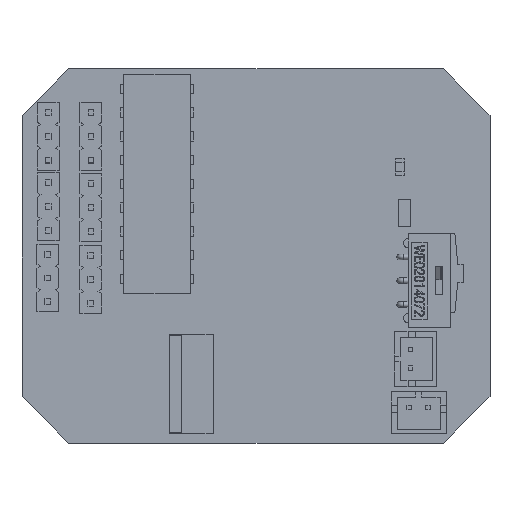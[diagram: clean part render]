
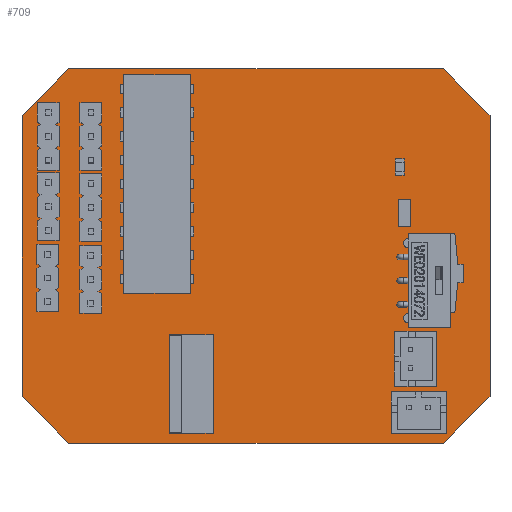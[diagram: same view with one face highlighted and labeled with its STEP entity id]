
A CAD part, top view. The second image highlights one B-rep face of the part: STEP entity #709.
In plain terms, the highlighted planar face has unit normal (0, 0, 1).
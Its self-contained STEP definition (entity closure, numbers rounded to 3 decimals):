
#87 = VERTEX_POINT('',#88);
#88 = CARTESIAN_POINT('',(87.5,30.,0.411));
#95 = PLANE('',#96);
#96 = AXIS2_PLACEMENT_3D('',#97,#98,#99);
#97 = CARTESIAN_POINT('',(87.5,30.,0.));
#98 = DIRECTION('',(-0.707,0.707,0.));
#99 = DIRECTION('',(0.707,0.707,0.));
#107 = PLANE('',#108);
#108 = AXIS2_PLACEMENT_3D('',#109,#110,#111);
#109 = CARTESIAN_POINT('',(47.5,30.,0.));
#110 = DIRECTION('',(0.,1.,0.));
#111 = DIRECTION('',(1.,0.,0.));
#119 = EDGE_CURVE('',#87,#120,#122,.T.);
#120 = VERTEX_POINT('',#121);
#121 = CARTESIAN_POINT('',(92.5,35.,0.411));
#122 = SURFACE_CURVE('',#123,(#127,#134),.PCURVE_S1.);
#123 = LINE('',#124,#125);
#124 = CARTESIAN_POINT('',(87.5,30.,0.411));
#125 = VECTOR('',#126,1.);
#126 = DIRECTION('',(0.707,0.707,0.));
#127 = PCURVE('',#95,#128);
#128 = DEFINITIONAL_REPRESENTATION('',(#129),#133);
#129 = LINE('',#130,#131);
#130 = CARTESIAN_POINT('',(0.,-0.411));
#131 = VECTOR('',#132,1.);
#132 = DIRECTION('',(1.,0.));
#133 = ( GEOMETRIC_REPRESENTATION_CONTEXT(2) 
PARAMETRIC_REPRESENTATION_CONTEXT() REPRESENTATION_CONTEXT('2D SPACE',''
  ) );
#134 = PCURVE('',#135,#140);
#135 = PLANE('',#136);
#136 = AXIS2_PLACEMENT_3D('',#137,#138,#139);
#137 = CARTESIAN_POINT('',(87.5,30.,0.411));
#138 = DIRECTION('',(0.,0.,-1.));
#139 = DIRECTION('',(-1.,0.,0.));
#140 = DEFINITIONAL_REPRESENTATION('',(#141),#145);
#141 = LINE('',#142,#143);
#142 = CARTESIAN_POINT('',(0.,0.));
#143 = VECTOR('',#144,1.);
#144 = DIRECTION('',(-0.707,0.707));
#145 = ( GEOMETRIC_REPRESENTATION_CONTEXT(2) 
PARAMETRIC_REPRESENTATION_CONTEXT() REPRESENTATION_CONTEXT('2D SPACE',''
  ) );
#163 = PLANE('',#164);
#164 = AXIS2_PLACEMENT_3D('',#165,#166,#167);
#165 = CARTESIAN_POINT('',(92.5,35.,0.));
#166 = DIRECTION('',(-1.,0.,0.));
#167 = DIRECTION('',(0.,1.,0.));
#205 = EDGE_CURVE('',#120,#206,#208,.T.);
#206 = VERTEX_POINT('',#207);
#207 = CARTESIAN_POINT('',(92.5,65.,0.411));
#208 = SURFACE_CURVE('',#209,(#213,#220),.PCURVE_S1.);
#209 = LINE('',#210,#211);
#210 = CARTESIAN_POINT('',(92.5,35.,0.411));
#211 = VECTOR('',#212,1.);
#212 = DIRECTION('',(0.,1.,0.));
#213 = PCURVE('',#163,#214);
#214 = DEFINITIONAL_REPRESENTATION('',(#215),#219);
#215 = LINE('',#216,#217);
#216 = CARTESIAN_POINT('',(0.,-0.411));
#217 = VECTOR('',#218,1.);
#218 = DIRECTION('',(1.,0.));
#219 = ( GEOMETRIC_REPRESENTATION_CONTEXT(2) 
PARAMETRIC_REPRESENTATION_CONTEXT() REPRESENTATION_CONTEXT('2D SPACE',''
  ) );
#220 = PCURVE('',#135,#221);
#221 = DEFINITIONAL_REPRESENTATION('',(#222),#226);
#222 = LINE('',#223,#224);
#223 = CARTESIAN_POINT('',(-5.,5.));
#224 = VECTOR('',#225,1.);
#225 = DIRECTION('',(0.,1.));
#226 = ( GEOMETRIC_REPRESENTATION_CONTEXT(2) 
PARAMETRIC_REPRESENTATION_CONTEXT() REPRESENTATION_CONTEXT('2D SPACE',''
  ) );
#244 = PLANE('',#245);
#245 = AXIS2_PLACEMENT_3D('',#246,#247,#248);
#246 = CARTESIAN_POINT('',(92.5,65.,0.));
#247 = DIRECTION('',(-0.707,-0.707,0.));
#248 = DIRECTION('',(-0.707,0.707,0.));
#281 = EDGE_CURVE('',#206,#282,#284,.T.);
#282 = VERTEX_POINT('',#283);
#283 = CARTESIAN_POINT('',(87.5,70.,0.411));
#284 = SURFACE_CURVE('',#285,(#289,#296),.PCURVE_S1.);
#285 = LINE('',#286,#287);
#286 = CARTESIAN_POINT('',(92.5,65.,0.411));
#287 = VECTOR('',#288,1.);
#288 = DIRECTION('',(-0.707,0.707,0.));
#289 = PCURVE('',#244,#290);
#290 = DEFINITIONAL_REPRESENTATION('',(#291),#295);
#291 = LINE('',#292,#293);
#292 = CARTESIAN_POINT('',(0.,-0.411));
#293 = VECTOR('',#294,1.);
#294 = DIRECTION('',(1.,0.));
#295 = ( GEOMETRIC_REPRESENTATION_CONTEXT(2) 
PARAMETRIC_REPRESENTATION_CONTEXT() REPRESENTATION_CONTEXT('2D SPACE',''
  ) );
#296 = PCURVE('',#135,#297);
#297 = DEFINITIONAL_REPRESENTATION('',(#298),#302);
#298 = LINE('',#299,#300);
#299 = CARTESIAN_POINT('',(-5.,35.));
#300 = VECTOR('',#301,1.);
#301 = DIRECTION('',(0.707,0.707));
#302 = ( GEOMETRIC_REPRESENTATION_CONTEXT(2) 
PARAMETRIC_REPRESENTATION_CONTEXT() REPRESENTATION_CONTEXT('2D SPACE',''
  ) );
#320 = PLANE('',#321);
#321 = AXIS2_PLACEMENT_3D('',#322,#323,#324);
#322 = CARTESIAN_POINT('',(87.5,70.,0.));
#323 = DIRECTION('',(0.,-1.,0.));
#324 = DIRECTION('',(-1.,0.,0.));
#357 = EDGE_CURVE('',#282,#358,#360,.T.);
#358 = VERTEX_POINT('',#359);
#359 = CARTESIAN_POINT('',(47.5,70.,0.411));
#360 = SURFACE_CURVE('',#361,(#365,#372),.PCURVE_S1.);
#361 = LINE('',#362,#363);
#362 = CARTESIAN_POINT('',(87.5,70.,0.411));
#363 = VECTOR('',#364,1.);
#364 = DIRECTION('',(-1.,0.,0.));
#365 = PCURVE('',#320,#366);
#366 = DEFINITIONAL_REPRESENTATION('',(#367),#371);
#367 = LINE('',#368,#369);
#368 = CARTESIAN_POINT('',(0.,-0.411));
#369 = VECTOR('',#370,1.);
#370 = DIRECTION('',(1.,0.));
#371 = ( GEOMETRIC_REPRESENTATION_CONTEXT(2) 
PARAMETRIC_REPRESENTATION_CONTEXT() REPRESENTATION_CONTEXT('2D SPACE',''
  ) );
#372 = PCURVE('',#135,#373);
#373 = DEFINITIONAL_REPRESENTATION('',(#374),#378);
#374 = LINE('',#375,#376);
#375 = CARTESIAN_POINT('',(0.,40.));
#376 = VECTOR('',#377,1.);
#377 = DIRECTION('',(1.,0.));
#378 = ( GEOMETRIC_REPRESENTATION_CONTEXT(2) 
PARAMETRIC_REPRESENTATION_CONTEXT() REPRESENTATION_CONTEXT('2D SPACE',''
  ) );
#396 = PLANE('',#397);
#397 = AXIS2_PLACEMENT_3D('',#398,#399,#400);
#398 = CARTESIAN_POINT('',(47.5,70.,0.));
#399 = DIRECTION('',(0.707,-0.707,0.));
#400 = DIRECTION('',(-0.707,-0.707,0.));
#433 = EDGE_CURVE('',#358,#434,#436,.T.);
#434 = VERTEX_POINT('',#435);
#435 = CARTESIAN_POINT('',(42.5,65.,0.411));
#436 = SURFACE_CURVE('',#437,(#441,#448),.PCURVE_S1.);
#437 = LINE('',#438,#439);
#438 = CARTESIAN_POINT('',(47.5,70.,0.411));
#439 = VECTOR('',#440,1.);
#440 = DIRECTION('',(-0.707,-0.707,0.));
#441 = PCURVE('',#396,#442);
#442 = DEFINITIONAL_REPRESENTATION('',(#443),#447);
#443 = LINE('',#444,#445);
#444 = CARTESIAN_POINT('',(0.,-0.411));
#445 = VECTOR('',#446,1.);
#446 = DIRECTION('',(1.,0.));
#447 = ( GEOMETRIC_REPRESENTATION_CONTEXT(2) 
PARAMETRIC_REPRESENTATION_CONTEXT() REPRESENTATION_CONTEXT('2D SPACE',''
  ) );
#448 = PCURVE('',#135,#449);
#449 = DEFINITIONAL_REPRESENTATION('',(#450),#454);
#450 = LINE('',#451,#452);
#451 = CARTESIAN_POINT('',(40.,40.));
#452 = VECTOR('',#453,1.);
#453 = DIRECTION('',(0.707,-0.707));
#454 = ( GEOMETRIC_REPRESENTATION_CONTEXT(2) 
PARAMETRIC_REPRESENTATION_CONTEXT() REPRESENTATION_CONTEXT('2D SPACE',''
  ) );
#472 = PLANE('',#473);
#473 = AXIS2_PLACEMENT_3D('',#474,#475,#476);
#474 = CARTESIAN_POINT('',(42.5,65.,0.));
#475 = DIRECTION('',(1.,0.,0.));
#476 = DIRECTION('',(0.,-1.,0.));
#509 = EDGE_CURVE('',#434,#510,#512,.T.);
#510 = VERTEX_POINT('',#511);
#511 = CARTESIAN_POINT('',(42.5,35.,0.411));
#512 = SURFACE_CURVE('',#513,(#517,#524),.PCURVE_S1.);
#513 = LINE('',#514,#515);
#514 = CARTESIAN_POINT('',(42.5,65.,0.411));
#515 = VECTOR('',#516,1.);
#516 = DIRECTION('',(0.,-1.,0.));
#517 = PCURVE('',#472,#518);
#518 = DEFINITIONAL_REPRESENTATION('',(#519),#523);
#519 = LINE('',#520,#521);
#520 = CARTESIAN_POINT('',(0.,-0.411));
#521 = VECTOR('',#522,1.);
#522 = DIRECTION('',(1.,0.));
#523 = ( GEOMETRIC_REPRESENTATION_CONTEXT(2) 
PARAMETRIC_REPRESENTATION_CONTEXT() REPRESENTATION_CONTEXT('2D SPACE',''
  ) );
#524 = PCURVE('',#135,#525);
#525 = DEFINITIONAL_REPRESENTATION('',(#526),#530);
#526 = LINE('',#527,#528);
#527 = CARTESIAN_POINT('',(45.,35.));
#528 = VECTOR('',#529,1.);
#529 = DIRECTION('',(0.,-1.));
#530 = ( GEOMETRIC_REPRESENTATION_CONTEXT(2) 
PARAMETRIC_REPRESENTATION_CONTEXT() REPRESENTATION_CONTEXT('2D SPACE',''
  ) );
#548 = PLANE('',#549);
#549 = AXIS2_PLACEMENT_3D('',#550,#551,#552);
#550 = CARTESIAN_POINT('',(42.5,35.,0.));
#551 = DIRECTION('',(0.707,0.707,0.));
#552 = DIRECTION('',(0.707,-0.707,0.));
#585 = EDGE_CURVE('',#510,#586,#588,.T.);
#586 = VERTEX_POINT('',#587);
#587 = CARTESIAN_POINT('',(47.5,30.,0.411));
#588 = SURFACE_CURVE('',#589,(#593,#600),.PCURVE_S1.);
#589 = LINE('',#590,#591);
#590 = CARTESIAN_POINT('',(42.5,35.,0.411));
#591 = VECTOR('',#592,1.);
#592 = DIRECTION('',(0.707,-0.707,0.));
#593 = PCURVE('',#548,#594);
#594 = DEFINITIONAL_REPRESENTATION('',(#595),#599);
#595 = LINE('',#596,#597);
#596 = CARTESIAN_POINT('',(0.,-0.411));
#597 = VECTOR('',#598,1.);
#598 = DIRECTION('',(1.,0.));
#599 = ( GEOMETRIC_REPRESENTATION_CONTEXT(2) 
PARAMETRIC_REPRESENTATION_CONTEXT() REPRESENTATION_CONTEXT('2D SPACE',''
  ) );
#600 = PCURVE('',#135,#601);
#601 = DEFINITIONAL_REPRESENTATION('',(#602),#606);
#602 = LINE('',#603,#604);
#603 = CARTESIAN_POINT('',(45.,5.));
#604 = VECTOR('',#605,1.);
#605 = DIRECTION('',(-0.707,-0.707));
#606 = ( GEOMETRIC_REPRESENTATION_CONTEXT(2) 
PARAMETRIC_REPRESENTATION_CONTEXT() REPRESENTATION_CONTEXT('2D SPACE',''
  ) );
#656 = EDGE_CURVE('',#586,#87,#657,.T.);
#657 = SURFACE_CURVE('',#658,(#662,#669),.PCURVE_S1.);
#658 = LINE('',#659,#660);
#659 = CARTESIAN_POINT('',(47.5,30.,0.411));
#660 = VECTOR('',#661,1.);
#661 = DIRECTION('',(1.,0.,0.));
#662 = PCURVE('',#107,#663);
#663 = DEFINITIONAL_REPRESENTATION('',(#664),#668);
#664 = LINE('',#665,#666);
#665 = CARTESIAN_POINT('',(0.,-0.411));
#666 = VECTOR('',#667,1.);
#667 = DIRECTION('',(1.,0.));
#668 = ( GEOMETRIC_REPRESENTATION_CONTEXT(2) 
PARAMETRIC_REPRESENTATION_CONTEXT() REPRESENTATION_CONTEXT('2D SPACE',''
  ) );
#669 = PCURVE('',#135,#670);
#670 = DEFINITIONAL_REPRESENTATION('',(#671),#675);
#671 = LINE('',#672,#673);
#672 = CARTESIAN_POINT('',(40.,0.));
#673 = VECTOR('',#674,1.);
#674 = DIRECTION('',(-1.,0.));
#675 = ( GEOMETRIC_REPRESENTATION_CONTEXT(2) 
PARAMETRIC_REPRESENTATION_CONTEXT() REPRESENTATION_CONTEXT('2D SPACE',''
  ) );
#709 = ADVANCED_FACE('',(#710),#135,.F.);
#710 = FACE_BOUND('',#711,.T.);
#711 = EDGE_LOOP('',(#712,#713,#714,#715,#716,#717,#718,#719));
#712 = ORIENTED_EDGE('',*,*,#119,.T.);
#713 = ORIENTED_EDGE('',*,*,#205,.T.);
#714 = ORIENTED_EDGE('',*,*,#281,.T.);
#715 = ORIENTED_EDGE('',*,*,#357,.T.);
#716 = ORIENTED_EDGE('',*,*,#433,.T.);
#717 = ORIENTED_EDGE('',*,*,#509,.T.);
#718 = ORIENTED_EDGE('',*,*,#585,.T.);
#719 = ORIENTED_EDGE('',*,*,#656,.T.);
